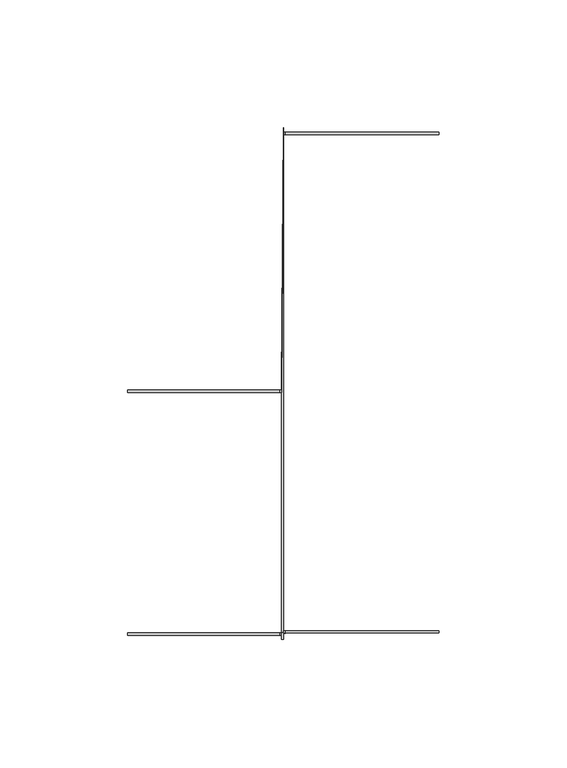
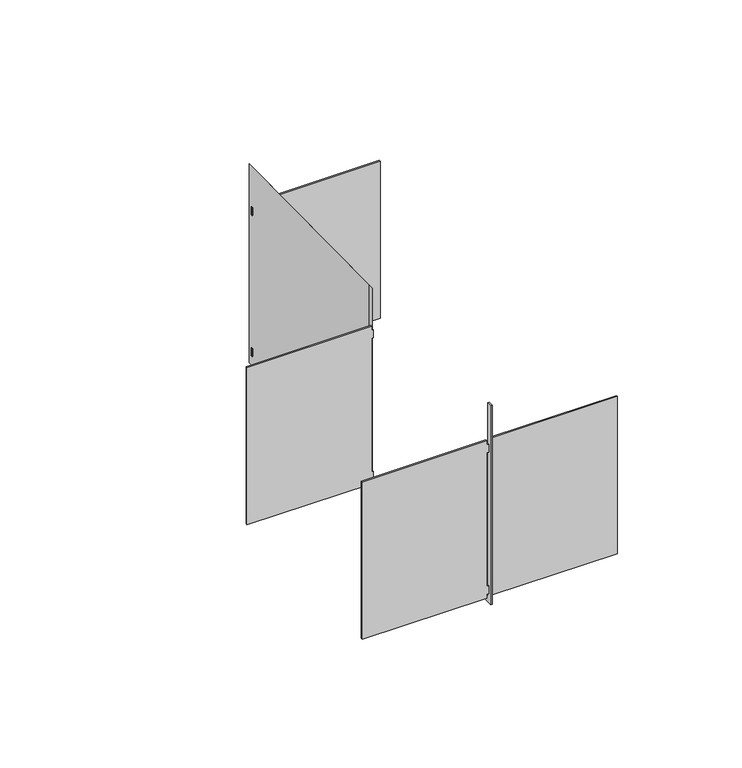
"""IFC4 building model written with IfcOpenShell, lengths in millimetres: cable carrier fitting geometry, REER_Angle Reducer-Basortray : Basortray REER-GS."""

from ifc_helpers import new_model, si_unit, frame, origin, place, context, project, spatial, polyline, outline, extrude, faceted_brep, source, transform, mapped, element, save


def cable_carrier_fitting_408e2334(model_context):
    return source(origin(), model_context, "Body", "SolidModel", [
        extrude(outline(polyline([(31.54, 61.6), (31.54, 1.6), (29.54, 1.6), (29.54, 0.8), (25.54, 0.8), (25.54, 1.6), (-7.96, 1.6), (-41.46, 1.6), (-41.46, 0.8), (-45.46, 0.8), (-45.46, 1.6), (-47.46, 1.6), (-47.46, 61.6), (31.54, 61.6)])), frame((0.0, 147.46, 0.0), z_axis=(0.0, 1.0, 0.0), x_axis=(0.0, 0.0, 1.0)), (0.0, 0.0, 1.0), 0.8),
        extrude(outline(polyline([(31.54, -60.0), (-47.46, -60.0), (-47.46, -0.8), (-45.46, -0.8), (-45.46, 0.0), (-41.46, 0.0), (-41.46, -0.8), (-7.96, -0.8), (25.54, -0.8), (25.54, 0.0), (29.54, 0.0), (29.54, -0.8), (31.54, -0.8), (31.54, -60.0)])), frame((0.0, -48.26, 0.0), z_axis=(0.0, 1.0, 0.0), x_axis=(0.0, 0.0, 1.0)), (0.0, 0.0, 1.0), 0.8),
        extrude(outline(polyline([(31.54, -60.0), (-47.46, -60.0), (-47.46, -0.8), (-45.46, -0.8), (-45.46, 0.0), (-41.46, 0.0), (-41.46, -0.8), (-7.96, -0.8), (25.54, -0.8), (25.54, 0.0), (29.54, 0.0), (29.54, -0.8), (31.54, -0.8), (31.54, -60.0)])), frame((0.0, 46.66, 0.0), z_axis=(0.0, 1.0, 0.0), x_axis=(0.0, 0.0, 1.0)), (0.0, 0.0, 1.0), 0.8),
        extrude(outline(polyline([(31.54, 61.6), (31.54, 1.6), (29.54, 1.6), (29.54, 0.8), (25.54, 0.8), (25.54, 1.6), (-7.96, 1.6), (-41.46, 1.6), (-41.46, 0.8), (-45.46, 0.8), (-45.46, 1.6), (-47.46, 1.6), (-47.46, 61.6), (31.54, 61.6)])), frame((0.0, -47.46, 0.0), z_axis=(0.0, 1.0, 0.0), x_axis=(0.0, 0.0, 1.0)), (0.0, 0.0, 1.0), 0.8),
        faceted_brep([(0.8, -50.0, -50.0), (0.8, 150.0, -50.0), (0.8, 150.0, 50.0), (0.8, 147.46, 50.0), (0.8, 147.46, -47.46), (0.8, -47.46, -47.46), (0.8, -47.46, 50.0), (0.8, -50.0, 50.0), (0.0, -50.0, -50.0), (0.0, -50.0, 50.0), (0.0, -47.46, 50.0), (0.0, -47.46, -47.46), (0.0, 47.46, -47.46), (0.0, 47.46, 50.0), (0.0, 50.0, 50.0), (0.0, 50.0, -50.0)], [[[0, 1, 2, 3, 4, 5, 6, 7]], [[8, 9, 10, 11, 12, 13, 14, 15]], [[8, 15, 1, 0]], [[15, 14, 2, 1]], [[14, 13, 3, 2]], [[13, 12, 4, 3]], [[12, 11, 5, 4]], [[11, 10, 6, 5]], [[10, 9, 7, 6]], [[9, 8, 0, 7]]]),
    ])


if __name__ == "__main__":
    model = new_model("IFC4")
    model_context = context("Model", 3, world=origin())
    ifc_project = project(units=[si_unit("LENGTHUNIT", "METRE", prefix="MILLI")], contexts=[model_context])
    site = spatial("IfcSite", under=ifc_project)
    building = spatial("IfcBuilding", under=site)
    placement = place(None, origin())
    cable_carrier_fitting_shape = cable_carrier_fitting_408e2334(model_context)
    element("IfcCableCarrierFitting", 1, ObjectType="REER_Angle Reducer-Basortray : Basortray REER-GS", at=placement, inside=building, context=model_context, shape_type="MappedRepresentation", body=[
        mapped(cable_carrier_fitting_shape, transform((0.0, 0.0, 0.0), x_axis=(1.0, 0.0, 0.0), y_axis=(0.0, 1.0, 0.0), z_axis=(0.0, 0.0, 1.0))),
    ])
    save(model, "model.ifc")
